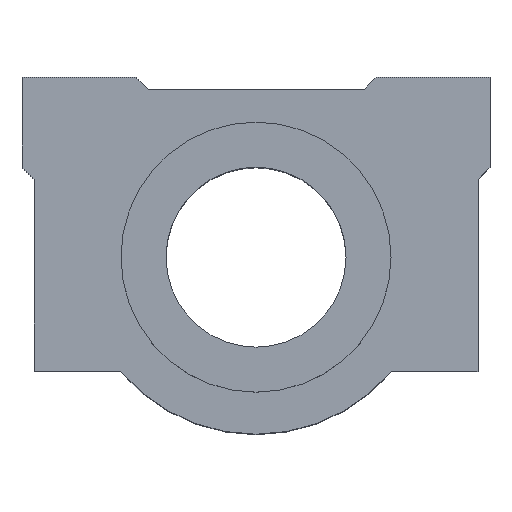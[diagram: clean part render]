
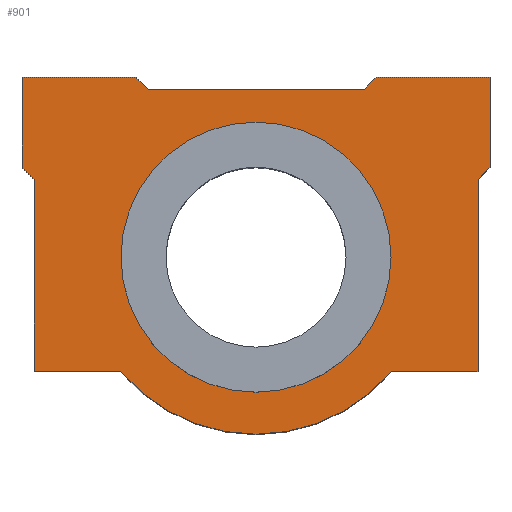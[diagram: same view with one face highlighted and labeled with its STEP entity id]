
A CAD part, top view. The second image highlights one B-rep face of the part: STEP entity #901.
In plain terms, the highlighted planar face has unit normal (0, 0, 1).
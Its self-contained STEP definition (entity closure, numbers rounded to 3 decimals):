
#133=CARTESIAN_POINT('',(-23.209,4.198,56.2));
#134=VERTEX_POINT('',#133);
#143=CARTESIAN_POINT('',(21.791,4.198,56.2));
#144=VERTEX_POINT('',#143);
#145=CARTESIAN_POINT('',(-0.709,4.198,56.2));
#146=DIRECTION('',(0.0,0.0,1.0));
#147=DIRECTION('',(-1.0,0.0,0.0));
#148=AXIS2_PLACEMENT_3D('',#145,#146,#147);
#149=CIRCLE('',#148,22.5);
#150=EDGE_CURVE('',#134,#144,#149,.T.);
#522=CARTESIAN_POINT('',(38.291,19.198,56.2));
#523=VERTEX_POINT('',#522);
#524=CARTESIAN_POINT('',(36.291,17.198,56.2));
#525=VERTEX_POINT('',#524);
#526=CARTESIAN_POINT('',(38.291,19.198,56.2));
#527=DIRECTION('',(-0.707,-0.707,0.0));
#528=VECTOR('',#527,2.828);
#529=LINE('',#526,#528);
#530=EDGE_CURVE('',#523,#525,#529,.T.);
#553=CARTESIAN_POINT('',(36.291,-14.802,56.2));
#554=VERTEX_POINT('',#553);
#555=CARTESIAN_POINT('',(36.291,17.198,56.2));
#556=DIRECTION('',(0.0,-1.0,0.0));
#557=VECTOR('',#556,32.);
#558=LINE('',#555,#557);
#559=EDGE_CURVE('',#525,#554,#558,.T.);
#577=CARTESIAN_POINT('',(21.858,-14.802,56.2));
#578=VERTEX_POINT('',#577);
#579=CARTESIAN_POINT('',(36.291,-14.802,56.2));
#580=DIRECTION('',(-1.0,0.0,0.0));
#581=VECTOR('',#580,14.433);
#582=LINE('',#579,#581);
#583=EDGE_CURVE('',#554,#578,#582,.T.);
#605=CARTESIAN_POINT('',(-23.275,-14.802,56.2));
#606=VERTEX_POINT('',#605);
#607=CARTESIAN_POINT('',(-0.709,4.198,56.2));
#608=DIRECTION('',(0.0,0.0,-1.0));
#609=DIRECTION('',(0.765,0.644,0.0));
#610=AXIS2_PLACEMENT_3D('',#607,#608,#609);
#611=CIRCLE('',#610,29.5);
#612=EDGE_CURVE('',#578,#606,#611,.T.);
#630=CARTESIAN_POINT('',(-37.709,-14.802,56.2));
#631=VERTEX_POINT('',#630);
#632=CARTESIAN_POINT('',(-23.275,-14.802,56.2));
#633=DIRECTION('',(-1.0,0.0,0.0));
#634=VECTOR('',#633,14.433);
#635=LINE('',#632,#634);
#636=EDGE_CURVE('',#606,#631,#635,.T.);
#658=CARTESIAN_POINT('',(-37.709,17.198,56.2));
#659=VERTEX_POINT('',#658);
#660=CARTESIAN_POINT('',(-37.709,-14.802,56.2));
#661=DIRECTION('',(0.0,1.0,0.0));
#662=VECTOR('',#661,32.);
#663=LINE('',#660,#662);
#664=EDGE_CURVE('',#631,#659,#663,.T.);
#682=CARTESIAN_POINT('',(-39.709,19.198,56.2));
#683=VERTEX_POINT('',#682);
#684=CARTESIAN_POINT('',(-37.709,17.198,56.2));
#685=DIRECTION('',(-0.707,0.707,0.0));
#686=VECTOR('',#685,2.828);
#687=LINE('',#684,#686);
#688=EDGE_CURVE('',#659,#683,#687,.T.);
#706=CARTESIAN_POINT('',(-39.709,34.198,56.2));
#707=VERTEX_POINT('',#706);
#708=CARTESIAN_POINT('',(-39.709,19.198,56.2));
#709=DIRECTION('',(0.0,1.0,0.0));
#710=VECTOR('',#709,15.);
#711=LINE('',#708,#710);
#712=EDGE_CURVE('',#683,#707,#711,.T.);
#730=CARTESIAN_POINT('',(-20.709,34.198,56.2));
#731=VERTEX_POINT('',#730);
#732=CARTESIAN_POINT('',(-39.709,34.198,56.2));
#733=DIRECTION('',(1.0,0.0,0.0));
#734=VECTOR('',#733,19.);
#735=LINE('',#732,#734);
#736=EDGE_CURVE('',#707,#731,#735,.T.);
#758=CARTESIAN_POINT('',(-18.709,32.198,56.2));
#759=VERTEX_POINT('',#758);
#760=CARTESIAN_POINT('',(-20.709,34.198,56.2));
#761=DIRECTION('',(0.707,-0.707,0.0));
#762=VECTOR('',#761,2.828);
#763=LINE('',#760,#762);
#764=EDGE_CURVE('',#731,#759,#763,.T.);
#782=CARTESIAN_POINT('',(17.291,32.198,56.2));
#783=VERTEX_POINT('',#782);
#784=CARTESIAN_POINT('',(-18.709,32.198,56.2));
#785=DIRECTION('',(1.0,0.0,0.0));
#786=VECTOR('',#785,36.0);
#787=LINE('',#784,#786);
#788=EDGE_CURVE('',#759,#783,#787,.T.);
#806=CARTESIAN_POINT('',(19.291,34.198,56.2));
#807=VERTEX_POINT('',#806);
#808=CARTESIAN_POINT('',(17.291,32.198,56.2));
#809=DIRECTION('',(0.707,0.707,0.0));
#810=VECTOR('',#809,2.828);
#811=LINE('',#808,#810);
#812=EDGE_CURVE('',#783,#807,#811,.T.);
#830=CARTESIAN_POINT('',(38.291,34.198,56.2));
#831=VERTEX_POINT('',#830);
#832=CARTESIAN_POINT('',(19.291,34.198,56.2));
#833=DIRECTION('',(1.0,0.0,0.0));
#834=VECTOR('',#833,19.0);
#835=LINE('',#832,#834);
#836=EDGE_CURVE('',#807,#831,#835,.T.);
#858=CARTESIAN_POINT('',(38.291,34.198,56.2));
#859=DIRECTION('',(0.0,-1.0,0.0));
#860=VECTOR('',#859,15.);
#861=LINE('',#858,#860);
#862=EDGE_CURVE('',#831,#523,#861,.T.);
#870=CARTESIAN_POINT('',(-0.709,8.165,56.2));
#871=DIRECTION('',(0.0,0.0,1.0));
#872=DIRECTION('',(1.0,0.0,0.0));
#873=AXIS2_PLACEMENT_3D('',#870,#871,#872);
#874=PLANE('',#873);
#875=ORIENTED_EDGE('',*,*,#530,.F.);
#876=ORIENTED_EDGE('',*,*,#862,.F.);
#877=ORIENTED_EDGE('',*,*,#836,.F.);
#878=ORIENTED_EDGE('',*,*,#812,.F.);
#879=ORIENTED_EDGE('',*,*,#788,.F.);
#880=ORIENTED_EDGE('',*,*,#764,.F.);
#881=ORIENTED_EDGE('',*,*,#736,.F.);
#882=ORIENTED_EDGE('',*,*,#712,.F.);
#883=ORIENTED_EDGE('',*,*,#688,.F.);
#884=ORIENTED_EDGE('',*,*,#664,.F.);
#885=ORIENTED_EDGE('',*,*,#636,.F.);
#886=ORIENTED_EDGE('',*,*,#612,.F.);
#887=ORIENTED_EDGE('',*,*,#583,.F.);
#888=ORIENTED_EDGE('',*,*,#559,.F.);
#889=EDGE_LOOP('',(#875,#876,#877,#878,#879,#880,#881,#882,#883,#884,#885,#886,#887,#888));
#890=FACE_OUTER_BOUND('',#889,.T.);
#891=CARTESIAN_POINT('',(-0.709,4.198,56.2));
#892=DIRECTION('',(0.0,0.0,1.0));
#893=DIRECTION('',(-1.0,0.0,0.0));
#894=AXIS2_PLACEMENT_3D('',#891,#892,#893);
#895=CIRCLE('',#894,22.5);
#896=EDGE_CURVE('',#144,#134,#895,.T.);
#897=ORIENTED_EDGE('',*,*,#896,.F.);
#898=ORIENTED_EDGE('',*,*,#150,.F.);
#899=EDGE_LOOP('',(#897,#898));
#900=FACE_BOUND('',#899,.T.);
#901=ADVANCED_FACE('',(#890,#900),#874,.T.);
